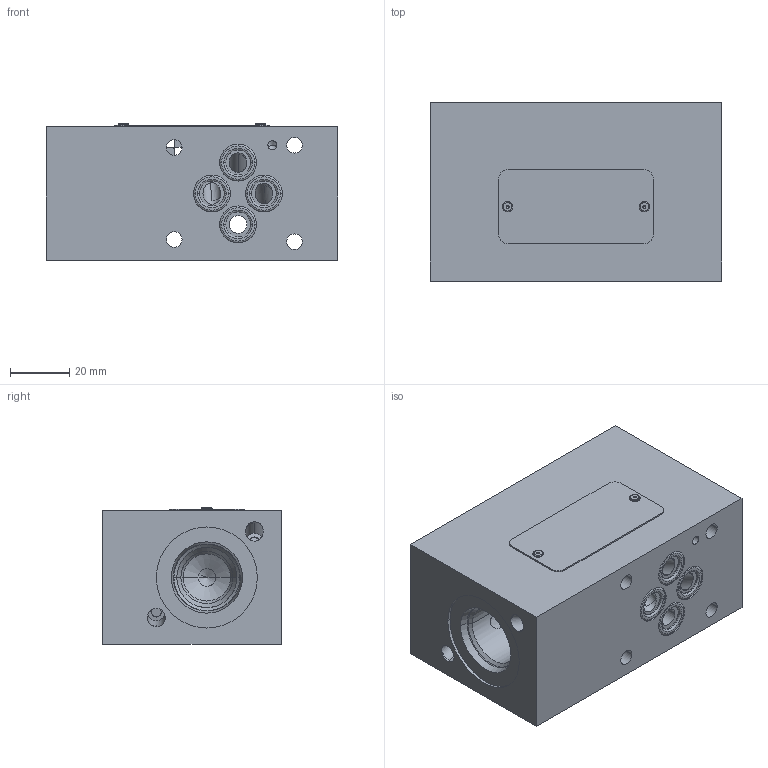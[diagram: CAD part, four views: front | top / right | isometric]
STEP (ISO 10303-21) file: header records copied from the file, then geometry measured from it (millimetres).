
FILE_DESCRIPTION((''),'2;1');
FILE_NAME('1000388521_ASM','2023-10-12T',('l.soukupova'),(''),'PRO/ENGINEER BY PARAMETRIC TECHNOLOGY CORPORATION, 2015440','PRO/ENGINEER BY PARAMETRIC TECHNOLOGY CORPORATION, 2015440','');
FILE_SCHEMA(('AUTOMOTIVE_DESIGN { 1 0 10303 214 1 1 1 1 }'));
Length unit declared in the file: millimetre
Products named in the file (9): 33881300; RD_LABEL_25X52_159703; AF_1932_16485; ORAR00012_201524_AF32; ORAR00012_201524_AF33; ORAR00012_201524_AF34; ORAR00012_201524_AF35; 1000288608; 1000388521_ASM
Assembly tree (11 placements, depth 2):
  1000388521_ASM
    33881300
    RD_LABEL_25X52_159703
    AF_1932_16485  x2
    ORAR00012_201524_AF32
    ORAR00012_201524_AF33
    ORAR00012_201524_AF34
    ORAR00012_201524_AF35
    1000288608  x3
Bounding box: 98 x 60 x 46 mm (x, y, z)
Volume: 233261 mm3; surface area: 45792.6 mm2
Topology: 11 solids, 14 shells, 449 faces, 1136 edges, 800 vertices
Faces by surface type: cone 227, cylinder 134, plane 52, torus 36
Entity records: 13978 total; most frequent: CARTESIAN_POINT 3070, DIRECTION 1776, ORIENTED_EDGE 1284, AXIS2_PLACEMENT_3D 720, EDGE_CURVE 648, PRESENTATION_STYLE_ASSIGNMENT 631, STYLED_ITEM 551, CURVE_STYLE 483
